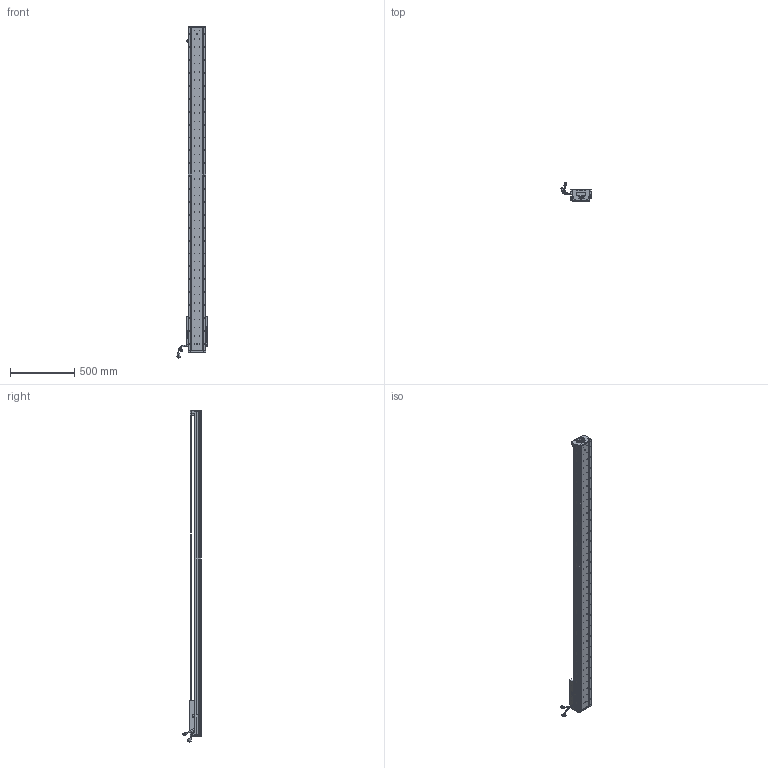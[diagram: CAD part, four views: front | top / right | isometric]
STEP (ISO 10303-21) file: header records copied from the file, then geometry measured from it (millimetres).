
FILE_DESCRIPTION (( 'STEP AP203' ), '1' );
FILE_NAME ('Z3-RY140D-1-L500-B-K.SLDASM_2200.step', '2021-05-17T08:04:15', ( '盈信电脑' ), ( '东莞市道滘镇水果街19号' ), 'SwSTEP 2.0', 'SolidWorks 2016', '' );
FILE_SCHEMA (( 'CONFIG_CONTROL_DESIGN' ));
Length unit declared in the file: millimetre
Products named in the file (36): SCALE-Part-2; SCREW-M1.7-1; SHIELDPLATE; Z-RY140感应器672光电感应片; LABEL-Part-1; SCALE; HARNESS-Part-1; SCREW-M1.7; Z-140詩湍傷裔啣; 覜茼ん672; HOLDER0; SCREW-M1.6-1; Z3-RY140D-1-L500-B-K.SLDASM_2200; SCREW-M1.6-2; Z3-RY140-L500詩湍100mm遵_2200; PBU_SHEET; SCALE-Part-1; Z-RY140詩湍奻揤裔; HARNESS-Part-2; Z3-RY140圉猾敕臏賑輸(21遴); 140雄赽晤鎢ん堤盄; Z3-RY140-L500直线电机模组底座_2200; COVER-Part-1; SCREW-M1.6-3; PSLH080_PSLF2; 140-Z-臏賑輸盄裔(21遴); SEAL; SEAL-Part-1; 080黍杅芛假蚾釱21遴; LABEL; 榋妏寠巭燃_暯_M2_2; SCREW-M1.6; Z-RY140詩湍狟揤裔; HARNESS; 140蚥薯蝶輸; COVER
Assembly tree (41 placements, depth 4):
  Z3-RY140D-1-L500-B-K.SLDASM_2200
    Z3-RY140-L500直线电机模组底座_2200
    Z-RY140感应器672光电感应片
    Z3-RY140圉猾敕臏賑輸(21遴)
    覜茼ん672  x3
    Z3-RY140-L500詩湍100mm遵_2200
    PSLH080_PSLF2
      SCALE
        SCALE-Part-1
        SCALE-Part-2
      HARNESS
        HARNESS-Part-1
        HARNESS-Part-2
      LABEL
        LABEL-Part-1
      COVER
        COVER-Part-1
      SEAL
        SEAL-Part-1
      榋妏寠巭燃_暯_M2_2
      SHIELDPLATE
      SCREW-M1.7
      SCREW-M1.7-1
      PBU_SHEET
      SCREW-M1.6
      SCREW-M1.6-1
      SCREW-M1.6-2
      SCREW-M1.6-3
      HOLDER0
    080黍杅芛假蚾釱21遴
    140-Z-臏賑輸盄裔(21遴)
    Z-140詩湍傷裔啣  x2
    Z-RY140詩湍狟揤裔  x2
    Z-RY140詩湍奻揤裔  x2
    140蚥薯蝶輸  x2
    140雄赽晤鎢ん堤盄
Bounding box: 239.84 x 143.88 x 2575.87 mm (x, y, z)
Volume: 8293141 mm3; surface area: 2159980.3 mm2
Topology: 36 solids, 36 shells, 4056 faces, 11020 edges, 6979 vertices
Faces by surface type: cylinder 2182, plane 1354, cone 398, torus 69, bspline 53
Entity records: 128280 total; most frequent: CARTESIAN_POINT 36091, ORIENTED_EDGE 18968, DIRECTION 17612, EDGE_CURVE 9484, AXIS2_PLACEMENT_3D 6548, VERTEX_POINT 6147, VECTOR 4516, LINE 4516
